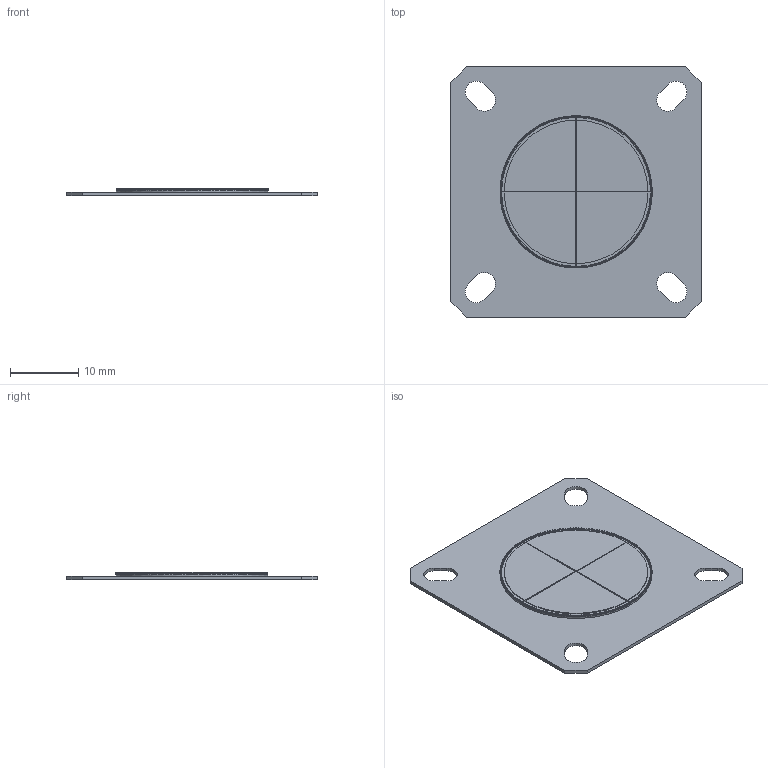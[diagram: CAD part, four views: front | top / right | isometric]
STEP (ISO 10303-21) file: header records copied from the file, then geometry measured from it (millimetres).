
FILE_DESCRIPTION((''),'2;1');
FILE_NAME('PROTO_INSERT_SIM_DUMMY-19','2020-10-15T11:19:00',('ccole'),(''),'CREO PARAMETRIC BY PTC INC, 2019292','CREO PARAMETRIC BY PTC INC, 2019292','');
FILE_SCHEMA(('CONFIG_CONTROL_DESIGN'));
Length unit declared in the file: inch
Products named in the file (1): PROTO_INSERT_SIM_DUMMY-19
Bounding box: 36.8 x 36.8 x 1.14 mm (x, y, z)
Volume: 848.1 mm3; surface area: 2748.6 mm2
Topology: 1 solids, 1 shells, 967 faces, 2883 edges, 1919 vertices
Faces by surface type: cylinder 566, plane 401
Entity records: 35955 total; most frequent: CARTESIAN_POINT 13842, ORIENTED_EDGE 5766, EDGE_CURVE 2883, DIRECTION 2869, B_SPLINE_CURVE_WITH_KNOTS 1991, VERTEX_POINT 1919, AXIS2_PLACEMENT_3D 1010, EDGE_LOOP 976
